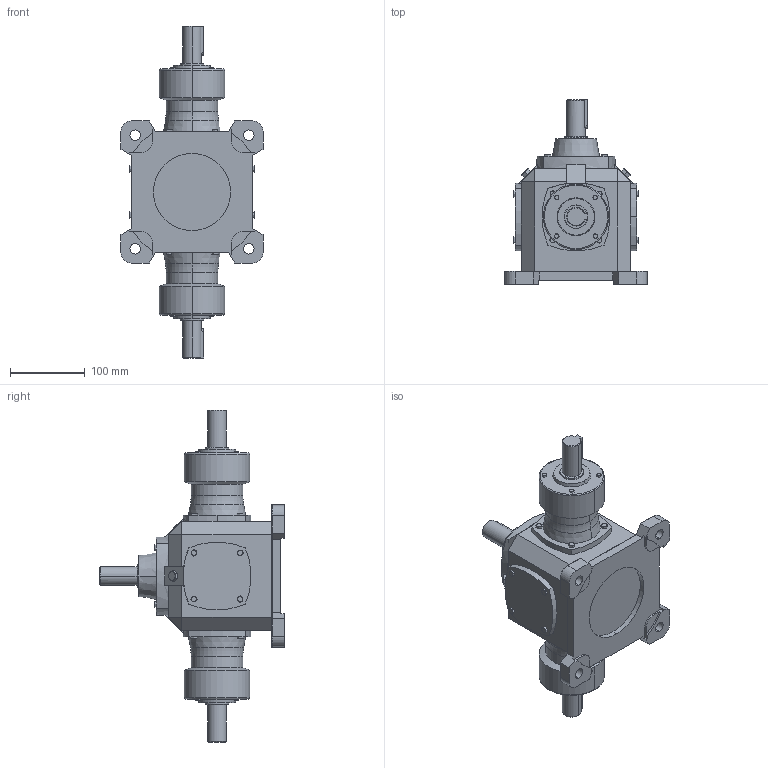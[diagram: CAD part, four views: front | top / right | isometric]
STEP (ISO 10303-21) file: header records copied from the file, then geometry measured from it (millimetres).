
FILE_DESCRIPTION (( 'STEP AP203' ), '1' );
FILE_NAME ('TC6-1-WSXH1-F5.step', '2018-07-14T07:09:25', ( 'IT Division' ), ( 'IT' ), 'SwSTEP 2.0', 'SolidWorks 2016', '' );
FILE_SCHEMA (( 'CONFIG_CONTROL_DESIGN' ));
Length unit declared in the file: millimetre
Products named in the file (1): TC6-1-WSXH1-F5
Bounding box: 190 x 247 x 444 mm (x, y, z)
Volume: 4511296.7 mm3; surface area: 278270.8 mm2
Topology: 3 solids, 3 shells, 662 faces, 1568 edges, 954 vertices
Faces by surface type: plane 321, cone 232, cylinder 97, torus 12
Entity records: 19898 total; most frequent: CARTESIAN_POINT 5116, ORIENTED_EDGE 3136, DIRECTION 2914, EDGE_CURVE 1568, AXIS2_PLACEMENT_3D 1080, VERTEX_POINT 954, LINE 754, VECTOR 754
